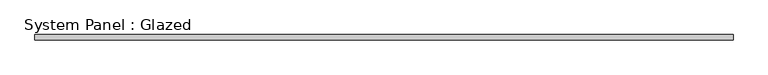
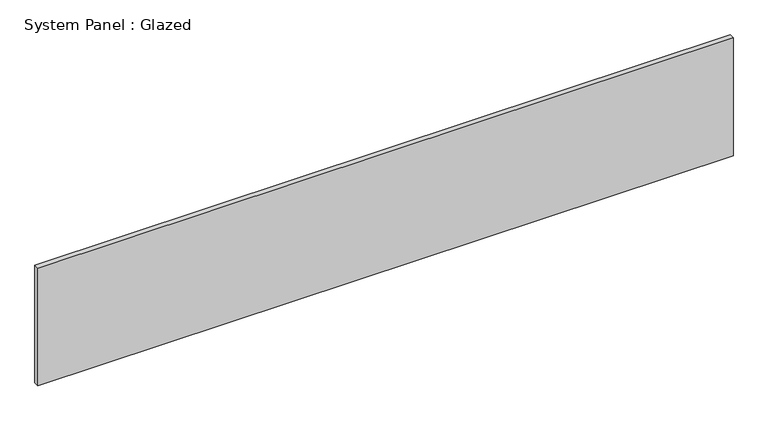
"""IFC4 building model written with IfcOpenShell, lengths in millimetres: plate geometry, System Panel : Glazed."""

from ifc_helpers import new_model, si_unit, origin, origin_with_axes, place, context, project, spatial, polyline, outline, extrude, source, transform, mapped, element, save


def system_panel_glazed_b815d245(model_context):
    return source(origin(), model_context, "Body", "SweptSolid", [
        extrude(outline(polyline([(1675.0, 24.5), (-1675.0, 24.5), (-1675.0, 49.5), (1675.0, 49.5), (1675.0, 24.5)])), origin_with_axes(), (0.0, 0.0, 1.0), 600.0),
    ])


if __name__ == "__main__":
    model = new_model("IFC4")
    model_context = context("Model", 3, world=origin())
    ifc_project = project(units=[si_unit("LENGTHUNIT", "METRE", prefix="MILLI")], contexts=[model_context])
    site = spatial("IfcSite", under=ifc_project)
    building = spatial("IfcBuilding", under=site)
    placement = place(None, origin())
    system_panel_glazed_shape = system_panel_glazed_b815d245(model_context)
    element("IfcPlate", 1, ObjectType="System Panel : Glazed", at=placement, inside=building, context=model_context, shape_type="MappedRepresentation", body=[
        mapped(system_panel_glazed_shape, transform((0.0, 0.0, 0.0), x_axis=(1.0, 0.0, 0.0), y_axis=(0.0, 1.0, 0.0), z_axis=(0.0, 0.0, 1.0))),
    ])
    save(model, "model.ifc")
